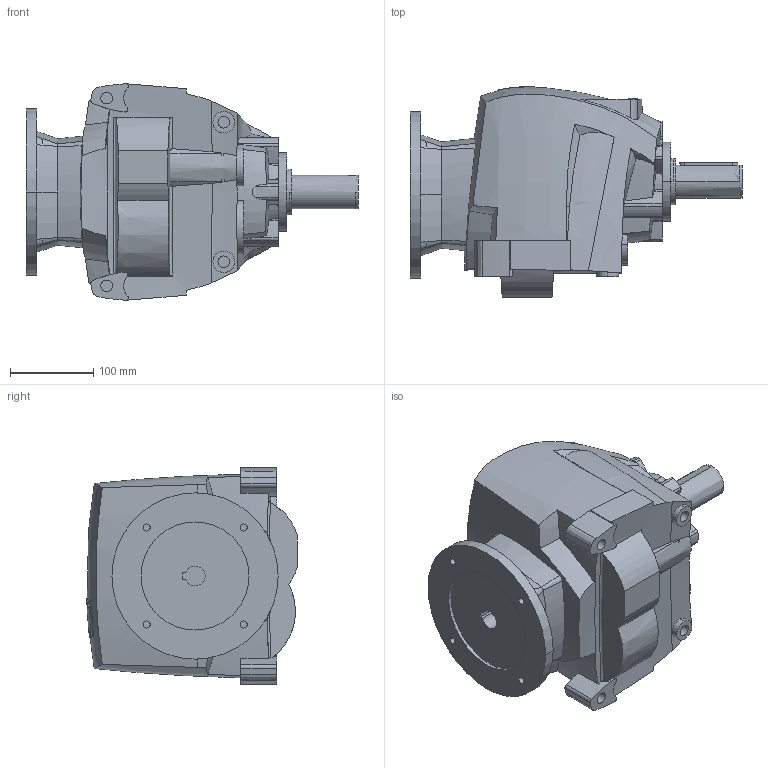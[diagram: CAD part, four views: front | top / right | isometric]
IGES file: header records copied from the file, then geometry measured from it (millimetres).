
Start section:  PTC IGES file: r40_unv_pam90.igs
Global section: file name: r40_unv_pam90.igs; native system: Pro/ENGINEER by Parametric Technology Corporation; preprocessor: 2008230; author: Luca; organization: Unknown; date: 20131127.003639; units: millimetre
Bounding box: 399.5 x 253.38 x 260.56 mm (x, y, z)
Volume: 11166862 mm3; surface area: 376850.5 mm2
Topology: 1 solids, 1 shells, 427 faces, 1177 edges, 790 vertices
Faces by surface type: bspline 208, revolution 182, extrusion 37
